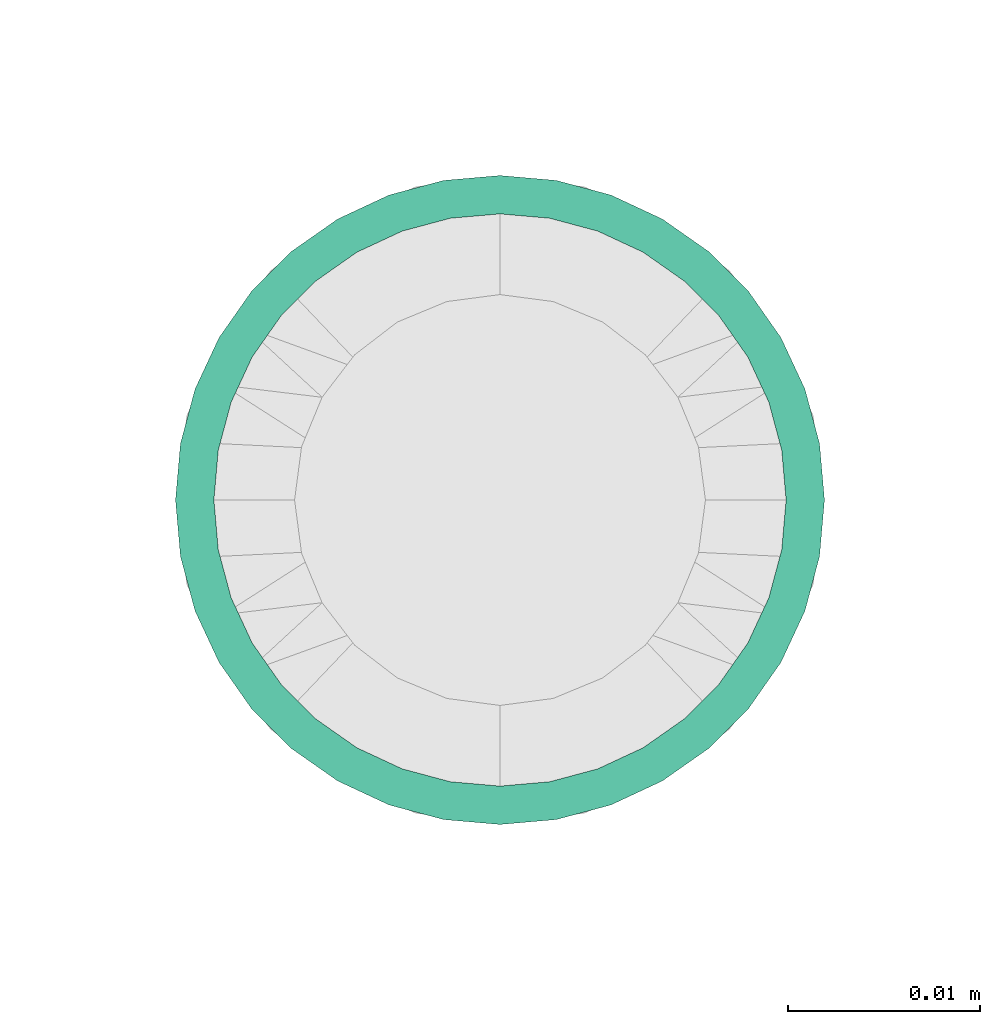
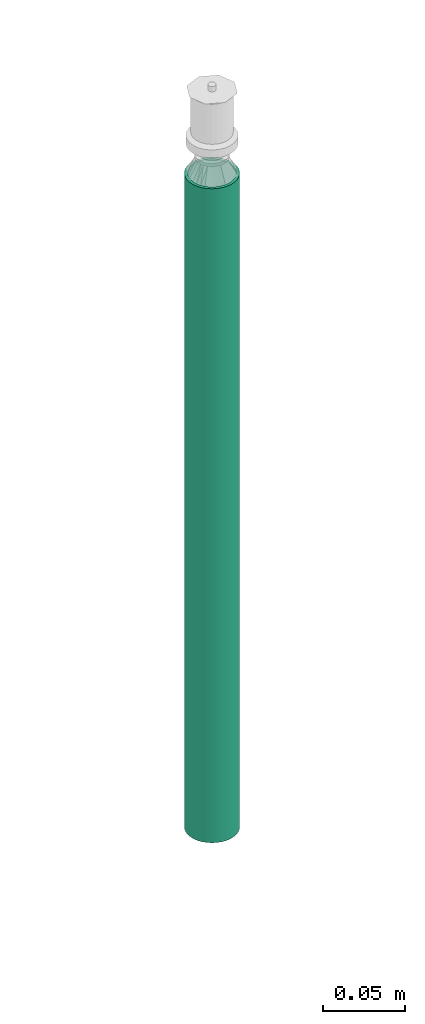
# One storey, part 60 of 63: 1 flow segment.
"""IFC2X3 building model written with IfcOpenShell, lengths in millimetres."""

from ifc_helpers import new_model, entity, si_unit, converted_unit, derived_unit, direction, frame, place, context, subcontext, project, spatial, faceted_brep, type_object, element, save


model = new_model("IFC2X3")

# Units and contexts
model_context = context("Model", 3, precision=0.01, world=frame((0.0, 4.29681676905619e-09, 0.0)), true_north=direction((4.01073788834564e-13, 1.0)))
plan_context = context("Plan", 3, precision=0.01, world=frame((0.0, 4.29681676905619e-09, 0.0)), true_north=direction((4.01073788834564e-13, 1.0)))
body_context = subcontext(model_context, "Body", "Model", "MODEL_VIEW")
ifc_project = project(units=[converted_unit("PLANEANGLEUNIT", "DEGREE", entity("IfcPositiveLengthMeasure", 0.0174532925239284), si_unit("PLANEANGLEUNIT", "RADIAN"), dimensions=[0, 0, 0, 0, 0, 0, 0]), si_unit("AREAUNIT", "SQUARE_METRE"), si_unit("LENGTHUNIT", "METRE", prefix="MILLI"), si_unit("MASSUNIT", "GRAM", prefix="KILO"), si_unit("POWERUNIT", "WATT"), si_unit("PRESSUREUNIT", "PASCAL", prefix="KILO"), si_unit("FORCEUNIT", "NEWTON", prefix="KILO"), si_unit("ELECTRICVOLTAGEUNIT", "VOLT"), si_unit("ELECTRICCURRENTUNIT", "AMPERE"), si_unit("THERMODYNAMICTEMPERATUREUNIT", "DEGREE_CELSIUS"), si_unit("TIMEUNIT", "SECOND"), si_unit("VOLUMEUNIT", "CUBIC_METRE"), derived_unit("LINEARVELOCITYUNIT", [(si_unit("LENGTHUNIT", "METRE"), 1), (si_unit("TIMEUNIT", "SECOND"), -1)]), derived_unit("VOLUMETRICFLOWRATEUNIT", [(si_unit("VOLUMEUNIT", "CUBIC_METRE"), 1), (si_unit("TIMEUNIT", "SECOND"), -1)]), derived_unit("THERMALTRANSMITTANCEUNIT", [(si_unit("POWERUNIT", "WATT"), 1), (si_unit("THERMODYNAMICTEMPERATUREUNIT", "KELVIN"), -1), (si_unit("AREAUNIT", "SQUARE_METRE"), -1)]), derived_unit("SOUNDPRESSUREUNIT", [(si_unit("PRESSUREUNIT", "PASCAL"), 1)])], contexts=[model_context, plan_context])

# Site, building, storey
site_placement = place(None, frame((0.0, -4.29681676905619e-09, 0.0), z_axis=(0.0, 0.0, 1.0), x_axis=(1.0, 0.0, 0.0)))
site = spatial("IfcSite", under=ifc_project, at=site_placement, CompositionType="ELEMENT")
building_placement = place(site_placement, frame((0.0, 4.29681676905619e-09, 0.0), z_axis=(0.0, 0.0, 1.0), x_axis=(1.0, 0.0, 0.0)))
building = spatial("IfcBuilding", under=site, at=building_placement, Name="mc-building", CompositionType="ELEMENT")
storey_placement = place(building_placement, frame((0.0, 0.0, 207370.0), z_axis=(0.0, 0.0, 1.0), x_axis=(1.0, 0.0, 0.0)))
storey = spatial("IfcBuildingStorey", under=building, at=storey_placement, Name="Nivå E", CompositionType="ELEMENT", Elevation=207370.0)

# Flow segment
pipe_segment_type = type_object("IfcPipeSegmentType", Name="Stålrør normaltykke", PredefinedType="RIGIDSEGMENT")
flow_segment_placement = place(storey_placement, frame((719641.29045, 443211.22347, 2175.29999999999), z_axis=(1.0, 0.0, 0.0), x_axis=(0.0, 0.0, 1.0)))
element("IfcFlowSegment", 1, at=flow_segment_placement, inside=storey, type_object=pipe_segment_type, Name="Stålrør normaltykke", context=body_context, shape_type="Brep", body=[
    faceted_brep([(354.700000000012, 14.6736355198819, -2.58735784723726), (354.700000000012, 14.9, 0.0), (843.1, 14.9, 0.0), (843.1, 14.6736355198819, -2.58735784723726), (354.700000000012, 14.00142004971, -5.09610013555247), (843.1, 14.00142004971, -5.09610013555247), (354.700000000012, 12.9037785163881, -7.45000000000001), (843.1, 12.9037785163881, -7.45000000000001), (354.700000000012, 11.4140622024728, -9.57753538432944), (843.1, 11.4140622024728, -9.57753538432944), (354.700000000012, 9.57753538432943, -11.4140622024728), (843.1, 9.57753538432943, -11.4140622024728), (354.700000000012, 7.45, -12.9037785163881), (843.1, 7.45, -12.9037785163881), (354.700000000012, 5.09610013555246, -14.00142004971), (843.1, 5.09610013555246, -14.00142004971), (354.700000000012, 2.58735784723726, -14.6736355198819), (843.1, 2.58735784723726, -14.6736355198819), (354.700000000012, -2.73708559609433e-15, -14.9), (843.1, -2.73708559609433e-15, -14.9), (354.700000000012, -2.58735784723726, -14.6736355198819), (843.1, -2.58735784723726, -14.6736355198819), (354.700000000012, -5.09610013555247, -14.00142004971), (843.1, -5.09610013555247, -14.00142004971), (354.700000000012, -7.45000000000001, -12.9037785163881), (843.1, -7.45000000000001, -12.9037785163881), (354.700000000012, -9.57753538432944, -11.4140622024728), (843.1, -9.57753538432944, -11.4140622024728), (354.700000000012, -11.4140622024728, -9.57753538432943), (843.1, -11.4140622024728, -9.57753538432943), (354.700000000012, -12.9037785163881, -7.44999999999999), (843.1, -12.9037785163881, -7.44999999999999), (354.700000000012, -14.00142004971, -5.09610013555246), (843.1, -14.00142004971, -5.09610013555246), (354.700000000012, -14.6736355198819, -2.58735784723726), (843.1, -14.6736355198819, -2.58735784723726), (354.700000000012, -14.9, 1.82472373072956e-15), (843.1, -14.9, 1.82472373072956e-15), (354.700000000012, -14.6736355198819, 2.58735784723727), (843.1, -14.6736355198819, 2.58735784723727), (354.700000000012, -14.00142004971, 5.09610013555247), (843.1, -14.00142004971, 5.09610013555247), (354.700000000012, -12.9037785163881, 7.45), (843.1, -12.9037785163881, 7.45), (354.700000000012, -11.4140622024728, 9.57753538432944), (843.1, -11.4140622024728, 9.57753538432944), (354.700000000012, -9.57753538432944, 11.4140622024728), (843.1, -9.57753538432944, 11.4140622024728), (354.700000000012, -7.45, 12.9037785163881), (843.1, -7.45, 12.9037785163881), (354.700000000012, -5.09610013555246, 14.00142004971), (843.1, -5.09610013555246, 14.00142004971), (354.700000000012, -2.58735784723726, 14.6736355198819), (843.1, -2.58735784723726, 14.6736355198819), (354.700000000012, 9.12361865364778e-16, 14.9), (843.1, 9.12361865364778e-16, 14.9), (354.700000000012, 2.58735784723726, 14.6736355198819), (843.1, 2.58735784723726, 14.6736355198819), (354.700000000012, 5.09610013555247, 14.00142004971), (843.1, 5.09610013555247, 14.00142004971), (354.700000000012, 7.45, 12.9037785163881), (843.1, 7.45, 12.9037785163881), (354.700000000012, 9.57753538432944, 11.4140622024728), (843.1, 9.57753538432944, 11.4140622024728), (354.700000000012, 11.4140622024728, 9.57753538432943), (843.1, 11.4140622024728, 9.57753538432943), (354.700000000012, 12.9037785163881, 7.45), (843.1, 12.9037785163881, 7.45), (354.700000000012, 14.00142004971, 5.09610013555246), (843.1, 14.00142004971, 5.09610013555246), (354.700000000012, 14.6736355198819, 2.58735784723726), (843.1, 14.6736355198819, 2.58735784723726), (354.700000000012, 16.9, 0.0), (354.700000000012, 16.6432510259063, -2.93465420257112), (843.1, 16.6432510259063, -2.93465420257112), (843.1, 16.9, 0.0), (354.700000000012, 16.6432510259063, 2.93465420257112), (843.1, 16.6432510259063, 2.93465420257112), (354.700000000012, 15.8808052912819, 5.7801404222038), (843.1, 15.8808052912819, 5.7801404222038), (354.700000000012, 14.635829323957, 8.45), (843.1, 14.635829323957, 8.45), (354.700000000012, 12.9461510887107, 10.8631106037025), (843.1, 12.9461510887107, 10.8631106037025), (354.700000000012, 10.8631106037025, 12.9461510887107), (843.1, 10.8631106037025, 12.9461510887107), (354.700000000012, 8.45, 14.635829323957), (843.1, 8.45, 14.635829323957), (354.700000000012, 5.7801404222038, 15.8808052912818), (843.1, 5.7801404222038, 15.8808052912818), (354.700000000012, 2.93465420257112, 16.6432510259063), (843.1, 2.93465420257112, 16.6432510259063), (354.700000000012, 1.03482654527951e-15, 16.9), (843.1, 1.03482654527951e-15, 16.9), (354.700000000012, -2.93465420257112, 16.6432510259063), (843.1, -2.93465420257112, 16.6432510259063), (354.700000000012, -5.7801404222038, 15.8808052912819), (843.1, -5.7801404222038, 15.8808052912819), (354.700000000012, -8.45, 14.635829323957), (843.1, -8.45, 14.635829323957), (354.700000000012, -10.8631106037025, 12.9461510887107), (843.1, -10.8631106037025, 12.9461510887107), (354.700000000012, -12.9461510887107, 10.8631106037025), (843.1, -12.9461510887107, 10.8631106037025), (354.700000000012, -14.635829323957, 8.45), (843.1, -14.635829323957, 8.45), (354.700000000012, -15.8808052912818, 5.7801404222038), (843.1, -15.8808052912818, 5.7801404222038), (354.700000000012, -16.6432510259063, 2.93465420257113), (843.1, -16.6432510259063, 2.93465420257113), (354.700000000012, -16.9, 2.06965309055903e-15), (843.1, -16.9, 2.06965309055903e-15), (354.700000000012, -16.6432510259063, -2.93465420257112), (843.1, -16.6432510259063, -2.93465420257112), (354.700000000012, -15.8808052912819, -5.7801404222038), (843.1, -15.8808052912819, -5.7801404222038), (354.700000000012, -14.635829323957, -8.44999999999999), (843.1, -14.635829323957, -8.44999999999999), (354.700000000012, -12.9461510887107, -10.8631106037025), (843.1, -12.9461510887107, -10.8631106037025), (354.700000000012, -10.8631106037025, -12.9461510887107), (843.1, -10.8631106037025, -12.9461510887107), (354.700000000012, -8.45000000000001, -14.635829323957), (843.1, -8.45000000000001, -14.635829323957), (354.700000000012, -5.78014042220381, -15.8808052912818), (843.1, -5.78014042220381, -15.8808052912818), (354.700000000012, -2.93465420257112, -16.6432510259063), (843.1, -2.93465420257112, -16.6432510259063), (354.700000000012, -3.10447963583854e-15, -16.9), (843.1, -3.10447963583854e-15, -16.9), (354.700000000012, 2.93465420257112, -16.6432510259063), (843.1, 2.93465420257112, -16.6432510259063), (354.700000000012, 5.78014042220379, -15.8808052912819), (843.1, 5.78014042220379, -15.8808052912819), (354.700000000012, 8.45, -14.635829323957), (843.1, 8.45, -14.635829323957), (354.700000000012, 10.8631106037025, -12.9461510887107), (843.1, 10.8631106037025, -12.9461510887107), (354.700000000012, 12.9461510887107, -10.8631106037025), (843.1, 12.9461510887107, -10.8631106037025), (354.700000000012, 14.635829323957, -8.45000000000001), (843.1, 14.635829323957, -8.45000000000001), (354.700000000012, 15.8808052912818, -5.78014042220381), (843.1, 15.8808052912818, -5.78014042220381)], [[[0, 1, 2, 3]], [[4, 0, 3, 5]], [[6, 4, 5, 7]], [[8, 6, 7, 9]], [[10, 8, 9, 11]], [[12, 10, 11, 13]], [[14, 12, 13, 15]], [[16, 14, 15, 17]], [[18, 16, 17, 19]], [[20, 18, 19, 21]], [[22, 20, 21, 23]], [[24, 22, 23, 25]], [[26, 24, 25, 27]], [[28, 26, 27, 29]], [[30, 28, 29, 31]], [[32, 30, 31, 33]], [[34, 32, 33, 35]], [[36, 34, 35, 37]], [[38, 36, 37, 39]], [[40, 38, 39, 41]], [[42, 40, 41, 43]], [[44, 42, 43, 45]], [[46, 44, 45, 47]], [[48, 46, 47, 49]], [[50, 48, 49, 51]], [[52, 50, 51, 53]], [[54, 52, 53, 55]], [[56, 54, 55, 57]], [[58, 56, 57, 59]], [[60, 58, 59, 61]], [[62, 60, 61, 63]], [[64, 62, 63, 65]], [[66, 64, 65, 67]], [[68, 66, 67, 69]], [[70, 68, 69, 71]], [[1, 70, 71, 2]], [[72, 73, 74, 75]], [[76, 72, 75, 77]], [[78, 76, 77, 79]], [[80, 78, 79, 81]], [[82, 80, 81, 83]], [[84, 82, 83, 85]], [[86, 84, 85, 87]], [[88, 86, 87, 89]], [[90, 88, 89, 91]], [[92, 90, 91, 93]], [[94, 92, 93, 95]], [[96, 94, 95, 97]], [[98, 96, 97, 99]], [[100, 98, 99, 101]], [[102, 100, 101, 103]], [[104, 102, 103, 105]], [[106, 104, 105, 107]], [[108, 106, 107, 109]], [[110, 108, 109, 111]], [[112, 110, 111, 113]], [[114, 112, 113, 115]], [[116, 114, 115, 117]], [[118, 116, 117, 119]], [[120, 118, 119, 121]], [[122, 120, 121, 123]], [[124, 122, 123, 125]], [[126, 124, 125, 127]], [[128, 126, 127, 129]], [[130, 128, 129, 131]], [[132, 130, 131, 133]], [[134, 132, 133, 135]], [[136, 134, 135, 137]], [[138, 136, 137, 139]], [[140, 138, 139, 141]], [[142, 140, 141, 143]], [[73, 142, 143, 74]], [[75, 74, 143, 141, 139, 137, 135, 133, 131, 129, 127, 125, 123, 121, 119, 117, 115, 113, 111, 109, 107, 105, 103, 101, 99, 97, 95, 93, 91, 89, 87, 85, 83, 81, 79, 77], [2, 71, 69, 67, 65, 63, 61, 59, 57, 55, 53, 51, 49, 47, 45, 43, 41, 39, 37, 35, 33, 31, 29, 27, 25, 23, 21, 19, 17, 15, 13, 11, 9, 7, 5, 3]], [[76, 78, 80, 82, 84, 86, 88, 90, 92, 94, 96, 98, 100, 102, 104, 106, 108, 110, 112, 114, 116, 118, 120, 122, 124, 126, 128, 130, 132, 134, 136, 138, 140, 142, 73, 72], [4, 6, 8, 10, 12, 14, 16, 18, 20, 22, 24, 26, 28, 30, 32, 34, 36, 38, 40, 42, 44, 46, 48, 50, 52, 54, 56, 58, 60, 62, 64, 66, 68, 70, 1, 0]]], orient=[[False], [False], [False], [False], [False], [False], [False], [False], [False], [False], [False], [False], [False], [False], [False], [False], [False], [False], [False], [False], [False], [False], [False], [False], [False], [False], [False], [False], [False], [False], [False], [False], [False], [False], [False], [False], [False], [False], [False], [False], [False], [False], [False], [False], [False], [False], [False], [False], [False], [False], [False], [False], [False], [False], [False], [False], [False], [False], [False], [False], [False], [False], [False], [False], [False], [False], [False], [False], [False], [False], [False], [False], [False, False], [False, False]]),
])

save(model, "model.ifc")
